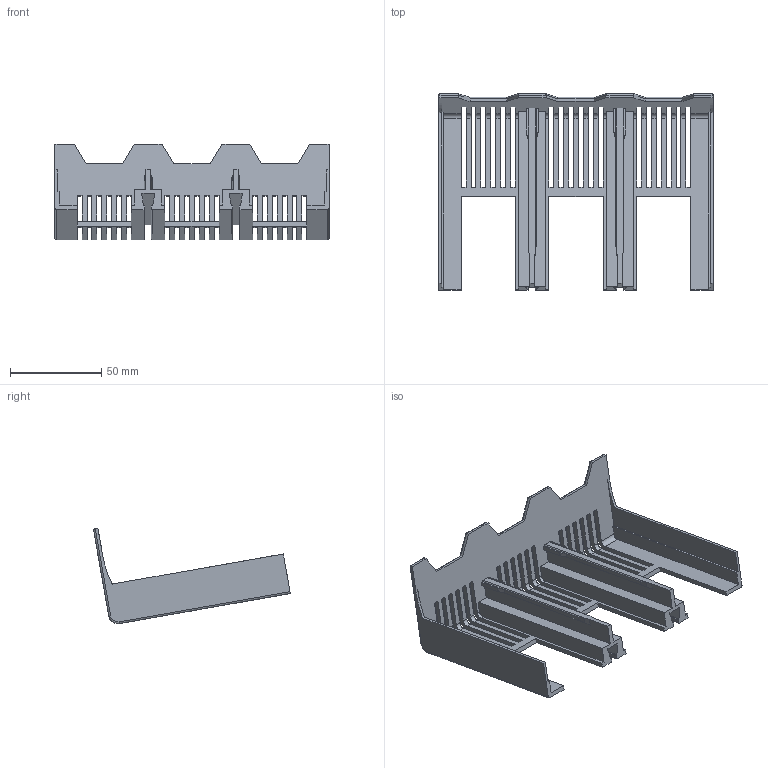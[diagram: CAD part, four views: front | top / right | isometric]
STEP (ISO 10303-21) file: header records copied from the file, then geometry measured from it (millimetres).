
FILE_DESCRIPTION (( 'STEP AP214' ), '1' );
FILE_NAME ('!TGM1NE-400-3p 孰屐祉 牮觇.STEP', '2025-12-10T13:26:03', ( '' ), ( '' ), 'SwSTEP 2.0', 'SolidWorks 2024', '' );
FILE_SCHEMA (( 'AUTOMOTIVE_DESIGN' ));
Length unit declared in the file: millimetre
Products named in the file (3): 4003P_1_1.stp; !TGM1NE-400-3p Клеммные крышки; !TGM1NE-400-3p Клеммные крышки.stp
Assembly tree (2 placements, depth 3):
  !TGM1NE-400-3p Клеммные крышки
    !TGM1NE-400-3p Клеммные крышки.stp
      4003P_1_1.stp
Bounding box: 150 x 107.61 x 52.33 mm (x, y, z)
Volume: 62988.1 mm3; surface area: 55815.2 mm2
Topology: 1 solids, 1 shells, 287 faces, 915 edges, 590 vertices
Faces by surface type: plane 176, cylinder 93, torus 10, bspline 4, sphere 4
Entity records: 10857 total; most frequent: CARTESIAN_POINT 2681, ORIENTED_EDGE 1818, DIRECTION 1597, EDGE_CURVE 909, LINE 699, VECTOR 699, VERTEX_POINT 588, AXIS2_PLACEMENT_3D 449
